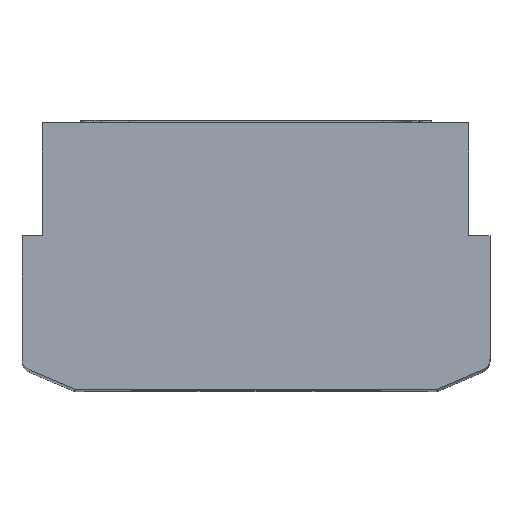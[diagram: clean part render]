
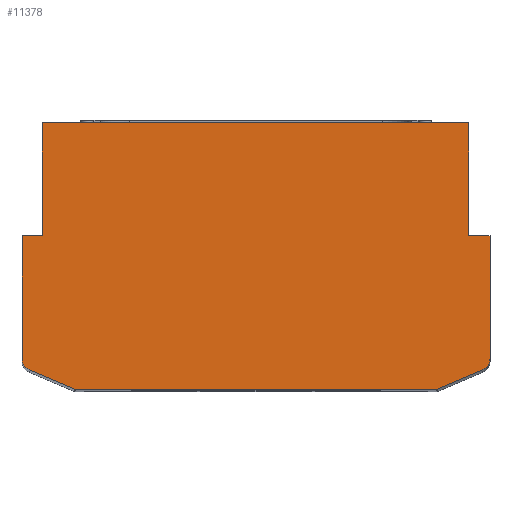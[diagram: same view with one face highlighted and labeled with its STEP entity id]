
A CAD part, top view. The second image highlights one B-rep face of the part: STEP entity #11378.
In plain terms, the highlighted planar face has unit normal (0, 0, 1).
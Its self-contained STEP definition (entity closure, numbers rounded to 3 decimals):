
#272 = VERTEX_POINT ( 'NONE', #14070 ) ;
#830 = VECTOR ( 'NONE', #23488, 1000. ) ;
#1598 = ORIENTED_EDGE ( 'NONE', *, *, #16274, .F. ) ;
#2055 = ORIENTED_EDGE ( 'NONE', *, *, #9647, .T. ) ;
#2458 = ORIENTED_EDGE ( 'NONE', *, *, #17690, .F. ) ;
#2979 = DIRECTION ( 'NONE',  ( 0., -1., 0. ) ) ;
#3108 = EDGE_CURVE ( 'NONE', #18426, #20800, #12959, .T. ) ;
#3621 = VECTOR ( 'NONE', #2979, 1000. ) ;
#3810 = LINE ( 'NONE', #25734, #32984 ) ;
#4444 = VERTEX_POINT ( 'NONE', #12596 ) ;
#4751 = DIRECTION ( 'NONE',  ( 0., 0., 1. ) ) ;
#4939 = VERTEX_POINT ( 'NONE', #9770 ) ;
#4997 = AXIS2_PLACEMENT_3D ( 'NONE', #16773, #27043, #32961 ) ;
#5092 = EDGE_CURVE ( 'NONE', #4939, #16639, #10467, .T. ) ;
#6241 = AXIS2_PLACEMENT_3D ( 'NONE', #19639, #25031, #22954 ) ;
#6496 = CARTESIAN_POINT ( 'NONE',  ( 220.25, 276.058, 0. ) ) ;
#6557 = EDGE_CURVE ( 'NONE', #4939, #28715, #3810, .T. ) ;
#6612 = ORIENTED_EDGE ( 'NONE', *, *, #5092, .T. ) ;
#7655 = CARTESIAN_POINT ( 'NONE',  ( 0., 276.058, 0. ) ) ;
#7982 = LINE ( 'NONE', #29046, #14989 ) ;
#8443 = EDGE_CURVE ( 'NONE', #8522, #10598, #17436, .T. ) ;
#8468 = VERTEX_POINT ( 'NONE', #33529 ) ;
#8512 = VERTEX_POINT ( 'NONE', #20629 ) ;
#8522 = VERTEX_POINT ( 'NONE', #12111 ) ;
#8947 = EDGE_CURVE ( 'NONE', #4444, #22814, #33315, .T. ) ;
#8969 = DIRECTION ( 'NONE',  ( -1., 0., 0. ) ) ;
#9647 = EDGE_CURVE ( 'NONE', #16639, #18544, #12889, .T. ) ;
#9655 = FACE_OUTER_BOUND ( 'NONE', #33659, .T. ) ;
#9770 = CARTESIAN_POINT ( 'NONE',  ( 220.25, 159.058, 0. ) ) ;
#9808 = DIRECTION ( 'NONE',  ( 0., -1., 0. ) ) ;
#10467 = LINE ( 'NONE', #13060, #30529 ) ;
#10598 = VERTEX_POINT ( 'NONE', #22656 ) ;
#11378 = ADVANCED_FACE ( 'NONE', ( #9655 ), #17824, .T. ) ;
#11829 = CARTESIAN_POINT ( 'NONE',  ( -242.5, 159.058, 0. ) ) ;
#11881 = CARTESIAN_POINT ( 'NONE',  ( -221.75, 159.058, 0. ) ) ;
#12111 = CARTESIAN_POINT ( 'NONE',  ( 242.5, 31.62, 0. ) ) ;
#12378 = ORIENTED_EDGE ( 'NONE', *, *, #18858, .T. ) ;
#12596 = CARTESIAN_POINT ( 'NONE',  ( -187.093, 0., 0. ) ) ;
#12889 = LINE ( 'NONE', #7655, #830 ) ;
#12959 = LINE ( 'NONE', #31750, #22698 ) ;
#13060 = CARTESIAN_POINT ( 'NONE',  ( 220.25, 159.058, 0. ) ) ;
#13341 = ORIENTED_EDGE ( 'NONE', *, *, #15452, .T. ) ;
#13571 = DIRECTION ( 'NONE',  ( 0., 0., -1. ) ) ;
#13746 = CARTESIAN_POINT ( 'NONE',  ( 187.093, 2., 0. ) ) ;
#14070 = CARTESIAN_POINT ( 'NONE',  ( -234.884, 20.113, 0. ) ) ;
#14394 = ORIENTED_EDGE ( 'NONE', *, *, #15825, .F. ) ;
#14989 = VECTOR ( 'NONE', #31476, 1000. ) ;
#15235 = AXIS2_PLACEMENT_3D ( 'NONE', #32482, #19242, #8969 ) ;
#15292 = CARTESIAN_POINT ( 'NONE',  ( 242.5, 159.058, 0. ) ) ;
#15452 = EDGE_CURVE ( 'NONE', #8468, #272, #27782, .T. ) ;
#15794 = VECTOR ( 'NONE', #17959, 1000. ) ;
#15825 = EDGE_CURVE ( 'NONE', #28715, #8522, #23372, .T. ) ;
#16233 = CIRCLE ( 'NONE', #18460, 2. ) ;
#16274 = EDGE_CURVE ( 'NONE', #17488, #22814, #16233, .T. ) ;
#16359 = CARTESIAN_POINT ( 'NONE',  ( 187.875, 0.159, 0. ) ) ;
#16435 = EDGE_CURVE ( 'NONE', #8512, #4444, #26273, .T. ) ;
#16639 = VERTEX_POINT ( 'NONE', #6496 ) ;
#16773 = CARTESIAN_POINT ( 'NONE',  ( -230., 31.62, 0. ) ) ;
#17436 = CIRCLE ( 'NONE', #15235, 12.5 ) ;
#17469 = VECTOR ( 'NONE', #9808, 1000. ) ;
#17488 = VERTEX_POINT ( 'NONE', #16359 ) ;
#17690 = EDGE_CURVE ( 'NONE', #10598, #17488, #7982, .T. ) ;
#17824 = PLANE ( 'NONE',  #29857 ) ;
#17959 = DIRECTION ( 'NONE',  ( 1., 0., 0. ) ) ;
#18348 = DIRECTION ( 'NONE',  ( 1., 0., 0. ) ) ;
#18426 = VERTEX_POINT ( 'NONE', #11829 ) ;
#18460 = AXIS2_PLACEMENT_3D ( 'NONE', #13746, #13571, #18965 ) ;
#18494 = DIRECTION ( 'NONE',  ( 0., -1., 0. ) ) ;
#18544 = VERTEX_POINT ( 'NONE', #33933 ) ;
#18858 = EDGE_CURVE ( 'NONE', #272, #8512, #28996, .T. ) ;
#18965 = DIRECTION ( 'NONE',  ( -1., 0., 0. ) ) ;
#19242 = DIRECTION ( 'NONE',  ( 0., 0., -1. ) ) ;
#19491 = VECTOR ( 'NONE', #26023, 1000. ) ;
#19639 = CARTESIAN_POINT ( 'NONE',  ( -187.093, 2., 0. ) ) ;
#20419 = CARTESIAN_POINT ( 'NONE',  ( -187.093, 0., 0. ) ) ;
#20629 = CARTESIAN_POINT ( 'NONE',  ( -187.875, 0.159, 0. ) ) ;
#20800 = VERTEX_POINT ( 'NONE', #11881 ) ;
#20994 = ORIENTED_EDGE ( 'NONE', *, *, #29474, .T. ) ;
#21070 = DIRECTION ( 'NONE',  ( 0., 1., 0. ) ) ;
#21751 = CARTESIAN_POINT ( 'NONE',  ( 187.093, 0., 0. ) ) ;
#22117 = CARTESIAN_POINT ( 'NONE',  ( -221.75, 276.058, 0. ) ) ;
#22220 = EDGE_CURVE ( 'NONE', #18426, #8468, #33665, .T. ) ;
#22656 = CARTESIAN_POINT ( 'NONE',  ( 234.884, 20.113, 0. ) ) ;
#22698 = VECTOR ( 'NONE', #18348, 1000. ) ;
#22814 = VERTEX_POINT ( 'NONE', #21751 ) ;
#22881 = CARTESIAN_POINT ( 'NONE',  ( -240.5, 274., 0. ) ) ;
#22925 = ORIENTED_EDGE ( 'NONE', *, *, #22220, .T. ) ;
#22954 = DIRECTION ( 'NONE',  ( 1., 0., 0. ) ) ;
#22959 = DIRECTION ( 'NONE',  ( 1., 0., 0. ) ) ;
#23372 = LINE ( 'NONE', #34018, #28453 ) ;
#23488 = DIRECTION ( 'NONE',  ( -1., 0., 0. ) ) ;
#25031 = DIRECTION ( 'NONE',  ( 0., 0., 1. ) ) ;
#25485 = DIRECTION ( 'NONE',  ( 1., 0., 0. ) ) ;
#25628 = ORIENTED_EDGE ( 'NONE', *, *, #6557, .F. ) ;
#25734 = CARTESIAN_POINT ( 'NONE',  ( 242.5, 159.058, 0. ) ) ;
#25836 = ORIENTED_EDGE ( 'NONE', *, *, #3108, .F. ) ;
#25997 = ORIENTED_EDGE ( 'NONE', *, *, #16435, .T. ) ;
#26023 = DIRECTION ( 'NONE',  ( 0.921, -0.391, 0. ) ) ;
#26195 = CARTESIAN_POINT ( 'NONE',  ( -234.884, 20.113, 0. ) ) ;
#26273 = CIRCLE ( 'NONE', #6241, 2. ) ;
#27043 = DIRECTION ( 'NONE',  ( 0., 0., 1. ) ) ;
#27782 = CIRCLE ( 'NONE', #4997, 12.5 ) ;
#28453 = VECTOR ( 'NONE', #18494, 1000. ) ;
#28715 = VERTEX_POINT ( 'NONE', #15292 ) ;
#28943 = CARTESIAN_POINT ( 'NONE',  ( -242.5, 274., 0. ) ) ;
#28996 = LINE ( 'NONE', #26195, #19491 ) ;
#29046 = CARTESIAN_POINT ( 'NONE',  ( 234.884, 20.113, 0. ) ) ;
#29474 = EDGE_CURVE ( 'NONE', #18544, #20800, #32738, .T. ) ;
#29857 = AXIS2_PLACEMENT_3D ( 'NONE', #22881, #4751, #25485 ) ;
#30207 = ORIENTED_EDGE ( 'NONE', *, *, #8947, .T. ) ;
#30529 = VECTOR ( 'NONE', #21070, 1000. ) ;
#31476 = DIRECTION ( 'NONE',  ( -0.921, -0.391, 0. ) ) ;
#31750 = CARTESIAN_POINT ( 'NONE',  ( -221.75, 159.058, 0. ) ) ;
#32012 = ORIENTED_EDGE ( 'NONE', *, *, #8443, .F. ) ;
#32482 = CARTESIAN_POINT ( 'NONE',  ( 230., 31.62, 0. ) ) ;
#32738 = LINE ( 'NONE', #22117, #3621 ) ;
#32961 = DIRECTION ( 'NONE',  ( 1., 0., 0. ) ) ;
#32984 = VECTOR ( 'NONE', #22959, 1000. ) ;
#33315 = LINE ( 'NONE', #20419, #15794 ) ;
#33529 = CARTESIAN_POINT ( 'NONE',  ( -242.5, 31.62, 0. ) ) ;
#33659 = EDGE_LOOP ( 'NONE', ( #20994, #25836, #22925, #13341, #12378, #25997, #30207, #1598, #2458, #32012, #14394, #25628, #6612, #2055 ) ) ;
#33665 = LINE ( 'NONE', #28943, #17469 ) ;
#33933 = CARTESIAN_POINT ( 'NONE',  ( -221.75, 276.058, 0. ) ) ;
#34018 = CARTESIAN_POINT ( 'NONE',  ( 242.5, 274., 0. ) ) ;
